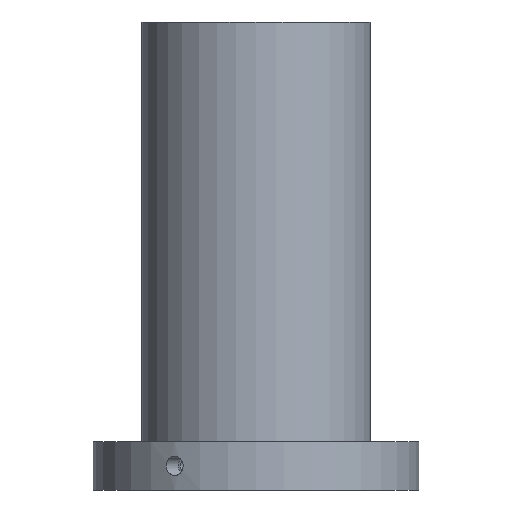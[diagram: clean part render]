
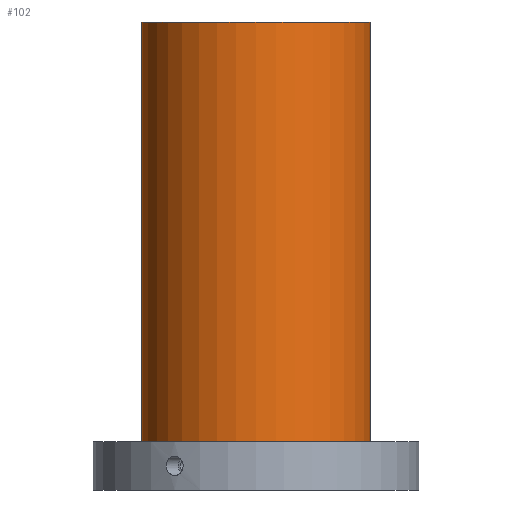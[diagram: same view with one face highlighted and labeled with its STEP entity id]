
A CAD part, front view. The second image highlights one B-rep face of the part: STEP entity #102.
In plain terms, the highlighted cylindrical face has radius 47.5 mm (diameter 95 mm), a full revolution.
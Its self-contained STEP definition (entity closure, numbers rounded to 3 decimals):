
#102=ADVANCED_FACE('',(#136,#137),#119,.T.);
#119=CYLINDRICAL_SURFACE('',#371,47.5);
#136=FACE_BOUND('',#188,.T.);
#137=FACE_BOUND('',#189,.T.);
#188=EDGE_LOOP('',(#240));
#189=EDGE_LOOP('',(#241));
#240=ORIENTED_EDGE('',*,*,#318,.F.);
#241=ORIENTED_EDGE('',*,*,#319,.T.);
#292=VERTEX_POINT('',#557);
#293=VERTEX_POINT('',#559);
#318=EDGE_CURVE('',#292,#292,#343,.T.);
#319=EDGE_CURVE('',#293,#293,#344,.T.);
#343=CIRCLE('',#369,47.5);
#344=CIRCLE('',#370,47.5);
#369=AXIS2_PLACEMENT_3D('',#556,#415,#416);
#370=AXIS2_PLACEMENT_3D('',#558,#417,#418);
#371=AXIS2_PLACEMENT_3D('',#560,#419,#420);
#415=DIRECTION('',(0.,0.,-1.));
#416=DIRECTION('',(1.,0.,0.));
#417=DIRECTION('',(0.,0.,-1.));
#418=DIRECTION('',(1.,0.,0.));
#419=DIRECTION('',(0.,0.,-1.));
#420=DIRECTION('',(-1.,0.,0.));
#556=CARTESIAN_POINT('',(0.,0.,20.));
#557=CARTESIAN_POINT('',(47.5,0.,20.));
#558=CARTESIAN_POINT('',(0.,0.,194.));
#559=CARTESIAN_POINT('',(47.5,0.,194.));
#560=CARTESIAN_POINT('',(0.,0.,194.));
